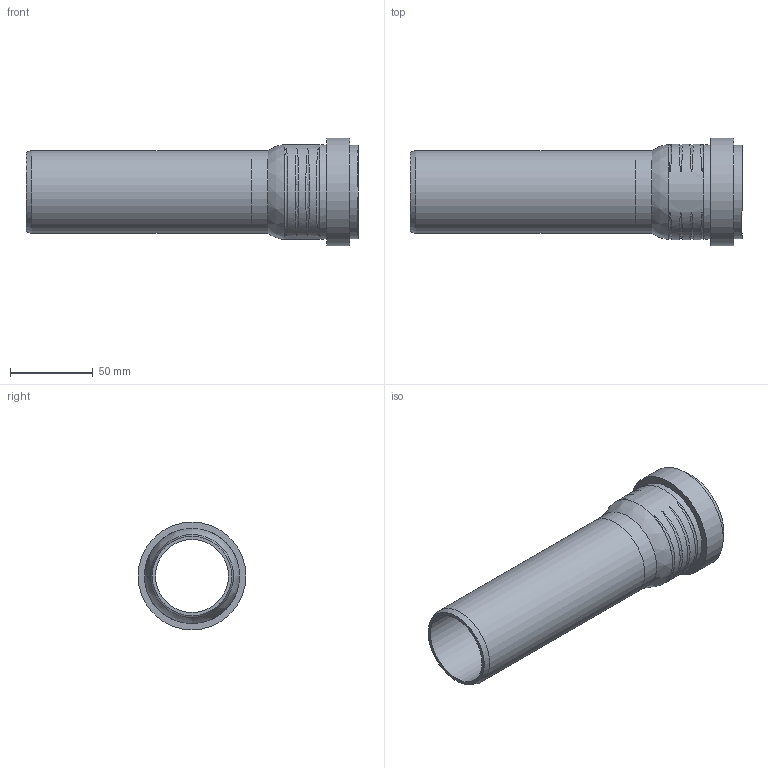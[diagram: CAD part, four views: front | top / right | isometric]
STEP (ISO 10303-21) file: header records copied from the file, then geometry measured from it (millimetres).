
FILE_DESCRIPTION(/* description */ (''),/* implementation_level */ '2;1');
FILE_NAME(/* name */ 'H:\Geberit-Teile\Export\PP_Rohr\stp\393200.stp',/* time_stamp */ '2017-02-13T16:04:46+01:00',/* author */ ('seihe2'),/* organization */ (''),/* preprocessor_version */ 'ST-DEVELOPER v15.2',/* originating_system */ 'Autodesk Inventor 2014',/* authorisation */ '');
FILE_SCHEMA (('AUTOMOTIVE_DESIGN { 1 0 10303 214 3 1 1 }'));
Length unit declared in the file: millimetre
Products named in the file (1): 393200
Bounding box: 200.8 x 65.1 x 65.1 mm (x, y, z)
Volume: 100540.9 mm3; surface area: 71264.4 mm2
Topology: 2 solids, 2 shells, 38 faces, 82 edges, 57 vertices
Faces by surface type: torus 16, cylinder 10, plane 8, cone 2, bspline 2
Full cylindrical faces by diameter (mm): 44.15 x2, 50.15 x2, 50.8 x1, 52 x1, 56.3 x1, 57.5 x1, 59.9 x1, 65.1 x1
Entity records: 2101 total; most frequent: CARTESIAN_POINT 1309, DIRECTION 132, ORIENTED_EDGE 130, EDGE_LOOP 68, AXIS2_PLACEMENT_3D 66, EDGE_CURVE 65, VERTEX_POINT 57, STYLED_ITEM 40
